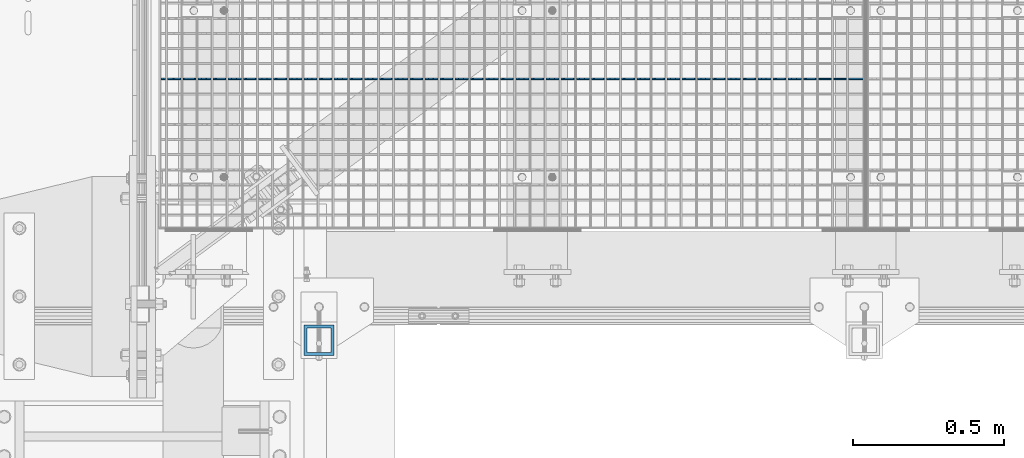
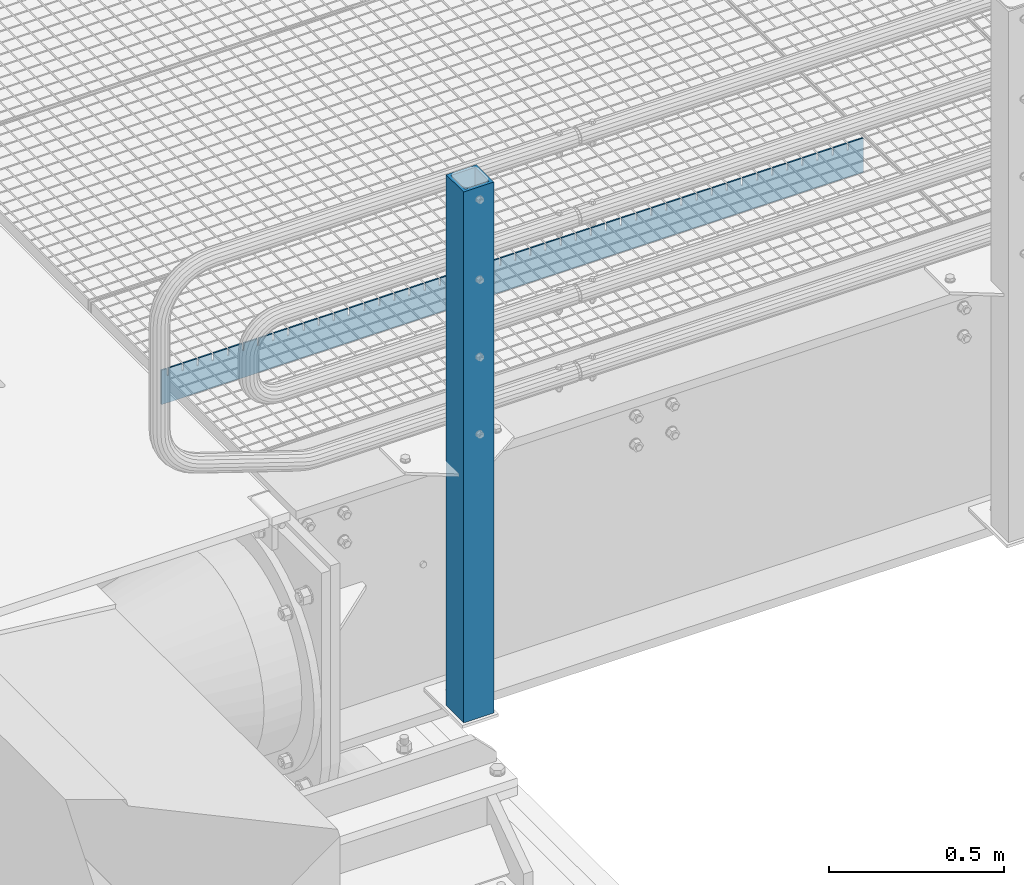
# One storey, part 112 of 1530: 2 beams.
"""IFC2X3 building model written with IfcOpenShell, lengths in millimetres."""

import ifcopenshell
import ifcopenshell.guid

model = None  # the IFC model being written
_history = None  # IfcOwnerHistory: only IFC2X3 demands one
_inside = {}  # id of a spatial element -> (the spatial element, [elements in it])
_under = {}  # id of a project, library or spatial element -> (it, [spatial elements below it])
_declared = {}  # id of a project -> (the project, [libraries it declares])
_typed = {}  # id of a type object -> (the type object, [elements of that type])
_made_of = {}  # id of a material, layer set ... -> (it, [elements and type objects made of it])


def new_model(schema):
    """Start an empty IFC model of exactly this schema.

    Asked for "IFC4X3", IfcOpenShell would pick the latest addendum, in which some entities
    have other attributes; the version numbers below select the first issue.
    IFC2X3 requires an IfcOwnerHistory on every rooted entity: one is made here for all.
    """
    global model, _history
    if schema == "IFC4X3":
        model = ifcopenshell.file(schema_version=(4, 3, 0, 0))
    else:
        model = ifcopenshell.file(schema=schema)
    _inside.clear()
    _under.clear()
    _declared.clear()
    _typed.clear()
    _made_of.clear()
    _history = None
    if model.schema == "IFC2X3":
        org = make("IfcOrganization", Name="unknown")
        user = make(
            "IfcPersonAndOrganization",
            ThePerson=make("IfcPerson", FamilyName="unknown"),
            TheOrganization=org,
        )
        app = make(
            "IfcApplication",
            ApplicationDeveloper=org,
            Version="unknown",
            ApplicationFullName="unknown",
            ApplicationIdentifier="unknown",
        )
        _history = make(
            "IfcOwnerHistory",
            OwningUser=user,
            OwningApplication=app,
            ChangeAction="ADDED",
            CreationDate=0,
        )
    return model


def make(cls, **values):
    """One entity of the class cls with the attributes given. An attribute that is None is left unset."""
    return model.create_entity(
        cls, **{name: value for name, value in values.items() if value is not None}
    )


def rooted(cls, **values):
    """An entity with a GlobalId (a new one), such as an element, a storey or a relation."""
    return make(cls, GlobalId=ifcopenshell.guid.new(), OwnerHistory=_history, **values)


def si_unit(unit_type, name, prefix=None):
    """IfcSIUnit, for example si_unit("LENGTHUNIT", "METRE", prefix="MILLI")."""
    return make("IfcSIUnit", UnitType=unit_type, Prefix=prefix, Name=name)


def assignment(units):
    """IfcUnitAssignment: the units of a project."""
    return None if units is None else make("IfcUnitAssignment", Units=units)


def point(xyz):
    """IfcCartesianPoint."""
    return None if xyz is None else make("IfcCartesianPoint", Coordinates=xyz)


def direction(xyz):
    """IfcDirection."""
    return None if xyz is None else make("IfcDirection", DirectionRatios=xyz)


def frame(location, z_axis=None, x_axis=None):
    """IfcAxis2Placement3D, a coordinate frame: its origin and axes. An axis left out is left unset."""
    return make(
        "IfcAxis2Placement3D",
        Location=point(location),
        Axis=direction(z_axis),
        RefDirection=direction(x_axis),
    )


def origin_with_axes():
    """The frame at (0, 0, 0) with the z axis (0, 0, 1) and the x axis (1, 0, 0) written out."""
    return frame((0.0, 0.0, 0.0), z_axis=(0.0, 0.0, 1.0), x_axis=(1.0, 0.0, 0.0))


def place(relative_to, where):
    """IfcLocalPlacement: puts the frame where relative to a parent placement (None: the world)."""
    return make(
        "IfcLocalPlacement", PlacementRelTo=relative_to, RelativePlacement=where
    )


def context(
    kind, dimensions, precision=None, world=None, true_north=None, identifier=None
):
    """IfcGeometricRepresentationContext, for example the 3D "Model" context."""
    return make(
        "IfcGeometricRepresentationContext",
        ContextIdentifier=identifier,
        ContextType=kind,
        CoordinateSpaceDimension=dimensions,
        Precision=precision,
        WorldCoordinateSystem=world,
        TrueNorth=true_north,
    )


def subcontext(parent, identifier, kind, view, scale=None):
    """IfcGeometricRepresentationSubContext, for example "Body" below "Model"."""
    return make(
        "IfcGeometricRepresentationSubContext",
        ContextIdentifier=identifier,
        ContextType=kind,
        ParentContext=parent,
        TargetScale=scale,
        TargetView=view,
    )


def project(units=None, contexts=None):
    """IfcProject with its units and contexts."""
    return rooted(
        "IfcProject",
        Name="project",
        RepresentationContexts=contexts,
        UnitsInContext=assignment(units),
    )


def spatial(cls, under=None, at=None, **own):
    """A site, building, storey or space (cls), placed at a placement, below another one or the project."""
    s = rooted(cls, ObjectPlacement=at, **own)
    if under is not None:
        _under.setdefault(under.id(), (under, []))[1].append(s)
    return s


def faces_of(points, faces, orient=None, outer=None):
    """IfcFace entities. A face is a list of loops; a loop is a list of indices into points, from 0.

    orient and outer hold one flag for each loop. By default every Orientation is true, the
    first loop of a face is its IfcFaceOuterBound and the others are IfcFaceBound.
    """
    made = []
    for i, loops in enumerate(faces):
        bounds = []
        for j, loop in enumerate(loops):
            is_outer = j == 0 if outer is None else outer[i][j]
            bounds.append(
                make(
                    "IfcFaceOuterBound" if is_outer else "IfcFaceBound",
                    Bound=make("IfcPolyLoop", Polygon=[points[k] for k in loop]),
                    Orientation=True if orient is None else orient[i][j],
                )
            )
        made.append(make("IfcFace", Bounds=bounds))
    return made


def faceted_brep(points, faces, orient=None, outer=None, voids=None):
    """IfcFacetedBrep: a solid bounded by flat faces; with voids (closed shells), ...WithVoids."""
    shared = [point(p) for p in points]
    hull = make("IfcClosedShell", CfsFaces=faces_of(shared, faces, orient, outer))
    if voids is None:
        return make("IfcFacetedBrep", Outer=hull)
    return make(
        "IfcFacetedBrepWithVoids",
        Outer=hull,
        Voids=[
            make(cls, CfsFaces=faces_of(shared, fs, o, b)) for cls, fs, o, b in voids
        ],
    )


def shape(context_of_items, identifier, shape_type, items):
    """IfcShapeRepresentation: the items that make up one representation, for example the "Body"."""
    return make(
        "IfcShapeRepresentation",
        ContextOfItems=context_of_items,
        RepresentationIdentifier=identifier,
        RepresentationType=shape_type,
        Items=items,
    )


def material(Name=None, Category=None):
    """IfcMaterial."""
    return make("IfcMaterial", Name=Name, Category=Category)


def made_of(thing, what):
    """Note that an element or type object is made of a material, layer set ...; save() writes the relation."""
    if what is not None:
        _made_of.setdefault(what.id(), (what, []))[1].append(thing)
    return thing


def type_object(cls, material=None, **own):
    """A type object (cls), such as IfcWallType, which elements share."""
    return made_of(rooted(cls, **own), material)


def element(
    cls,
    number,
    at=None,
    inside=None,
    cuts=None,
    type_object=None,
    material=None,
    context=None,
    identifier="Body",
    shape_type=None,
    held_by="IfcProductDefinitionShape",
    body=None,
    shapes=None,
    **own,
):
    """One element of the class cls, such as IfcWall. Its Tag is "e" and its number.

    at: its placement. inside: the storey or other place that contains it. cuts: it is an
    opening in that element (IfcRelVoidsElement). A single representation is given by context,
    identifier, shape_type and body (its items); several are given by shapes. held_by: the class
    of the entity that holds the representations. save() writes the other relations.
    """
    e = rooted(cls, Tag="e%d" % number, ObjectPlacement=at, **own)
    if body is not None:
        shapes = [shape(context, identifier, shape_type, body)]
    if shapes is not None:
        e.Representation = make(held_by, Representations=shapes)
    if inside is not None:
        _inside.setdefault(inside.id(), (inside, []))[1].append(e)
    if cuts is not None:
        rooted(
            "IfcRelVoidsElement", RelatingBuildingElement=cuts, RelatedOpeningElement=e
        )
    if type_object is not None:
        _typed.setdefault(type_object.id(), (type_object, []))[1].append(e)
    return made_of(e, material)


def aggregate(whole, parts):
    """IfcRelAggregates: a whole, such as a stair, and the parts it consists of."""
    return rooted("IfcRelAggregates", RelatingObject=whole, RelatedObjects=parts)


def save(model, path):
    """Write the relations noted so far, then the file.

    IfcRelAggregates (storeys below a building ...), IfcRelContainedInSpatialStructure (elements
    in a storey), IfcRelDefinesByType, IfcRelAssociatesMaterial and IfcRelDeclares: one each for
    every whole, place, type object, material and project.
    """
    for whole, parts in _under.values():
        aggregate(whole, parts)
    for where, things in _inside.values():
        rooted(
            "IfcRelContainedInSpatialStructure",
            RelatedElements=things,
            RelatingStructure=where,
        )
    for kind, things in _typed.values():
        rooted("IfcRelDefinesByType", RelatedObjects=things, RelatingType=kind)
    for what, things in _made_of.values():
        rooted("IfcRelAssociatesMaterial", RelatedObjects=things, RelatingMaterial=what)
    for by, libraries in _declared.values():
        rooted("IfcRelDeclares", RelatingContext=by, RelatedDefinitions=libraries)
    model.write(path)


model = new_model("IFC2X3")

# Units and contexts
model_context = context("Model", 3, precision=1e-05, world=origin_with_axes())
body_context = subcontext(model_context, "Body", "Model", "MODEL_VIEW")
ifc_project = project(units=[si_unit("LENGTHUNIT", "METRE", prefix="MILLI"), si_unit("AREAUNIT", "SQUARE_METRE"), si_unit("VOLUMEUNIT", "CUBIC_METRE"), si_unit("MASSUNIT", "GRAM", prefix="KILO"), si_unit("TIMEUNIT", "SECOND"), si_unit("PLANEANGLEUNIT", "RADIAN"), si_unit("SOLIDANGLEUNIT", "STERADIAN"), si_unit("THERMODYNAMICTEMPERATUREUNIT", "DEGREE_CELSIUS"), si_unit("LUMINOUSINTENSITYUNIT", "LUMEN")], contexts=[model_context])

# Site, building, storey
site_placement = place(None, origin_with_axes())
site = spatial("IfcSite", under=ifc_project, at=site_placement, Name="Brattvåg", CompositionType="ELEMENT")
building_placement = place(site_placement, origin_with_axes())
building = spatial("IfcBuilding", under=site, at=building_placement, Name="Undefined", CompositionType="ELEMENT")
storey_placement = place(building_placement, origin_with_axes())
storey = spatial("IfcBuildingStorey", under=building, at=storey_placement, Name="Undefined", CompositionType="ELEMENT", Elevation=0.0)

# Beams
ifc_material_1 = material(Name="STEEL/S355J2")
beam_type_1 = type_object("IfcBeamType", Name="120*5", PredefinedType="NOTDEFINED")
beam_1_placement = place(storey_placement, frame((2347.01317977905, 652.995635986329, -59.9998626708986), z_axis=(0.0, 0.0, 1.0), x_axis=(-1.0, 1.99999855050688e-09, 0.0)))
element("IfcBeam", 1, at=beam_1_placement, inside=storey, type_object=beam_type_1, material=ifc_material_1, Name="GRATING", context=body_context, shape_type="Brep", body=[
    faceted_brep([(99.4490367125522, -2.50000000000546, 60.0000722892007), (99.4490367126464, -2.50000000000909, 35.0001373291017), (99.4490367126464, 2.50022888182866, 35.0001373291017), (99.4490367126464, 2.5, 60.0), (104.449036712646, -2.50000000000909, 35.0001373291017), (104.449036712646, 2.50022888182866, 35.0001373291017), (104.449036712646, -2.50000000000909, 60.0001373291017), (104.449036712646, 2.5, 60.0), (54.5084370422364, -2.50000000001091, 60.0001373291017), (54.5084370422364, 2.5, 60.0), (54.5084370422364, 2.49999999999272, 35.0001373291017), (54.5084370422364, -2.50000000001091, 35.0001373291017), (49.5084370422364, 2.49999999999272, 35.0001373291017), (49.5084370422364, -2.50000000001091, 35.0001373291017), (49.5084370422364, -2.5, 60.0), (49.5084370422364, 2.5, 60.0), (0.0, 2.5, 60.0), (0.0, -2.5, 60.0), (0.0, -2.5, -60.0), (0.0, 2.5, -60.0), (2319.99865722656, 2.5, -60.0), (2319.99865722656, -2.5, -60.0), (2319.99865722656, -2.5, 60.0), (2319.99865722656, 2.5, 60.0), (2302.24871932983, 2.5, 60.0), (2302.24871932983, -2.50000000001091, 60.0001373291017), (2302.24871932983, 2.49999999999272, 35.0001373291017), (2302.24871932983, -2.50000000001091, 35.0001373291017), (2297.24871932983, 2.49999999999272, 35.0001373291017), (2297.24871932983, -2.50000000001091, 35.0001373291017), (2297.24871932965, -2.50000000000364, 60.0000461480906), (2297.24871932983, 2.5, 60.0), (2252.29859649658, 2.5, 60.0), (2252.29859649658, -2.50000000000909, 60.0001373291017), (2252.29859649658, 2.50022888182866, 35.0001373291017), (2252.29859649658, -2.50000000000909, 35.0001373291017), (2247.29859649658, 2.50022888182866, 35.0001373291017), (2247.29859649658, -2.50000000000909, 35.0001373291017), (2247.29859649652, -2.50000000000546, 60.0000848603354), (2247.29859649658, 2.5, 60.0), (2202.34847366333, 2.5, 60.0), (2202.34847366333, -2.50000000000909, 60.0001373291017), (2202.34847366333, 2.50022888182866, 35.0001373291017), (2202.34847366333, -2.50000000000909, 35.0001373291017), (2197.34847366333, 2.50022888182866, 35.0001373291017), (2197.34847366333, -2.50000000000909, 35.0001373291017), (2197.34847366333, -2.5, 60.0), (2197.34847366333, 2.5, 60.0), (2152.39882766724, 2.5, 60.0), (2152.39882766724, -2.50000000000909, 60.0001373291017), (2152.39882766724, 2.50022888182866, 35.0001373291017), (2152.39882766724, -2.50000000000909, 35.0001373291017), (2147.39882766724, 2.50022888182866, 35.0001373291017), (2147.39882766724, -2.50000000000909, 35.0001373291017), (2147.39882766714, -2.50000000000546, 60.0000722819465), (2147.39882766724, 2.5, 60.0), (2102.44870483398, 2.5, 60.0), (2102.44870483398, -2.50000000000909, 60.0001373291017), (2102.44870483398, 2.50022888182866, 35.0001373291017), (2102.44870483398, -2.50000000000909, 35.0001373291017), (2097.44870483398, 2.50022888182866, 35.0001373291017), (2097.44870483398, -2.50000000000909, 35.0001373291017), (2097.44870483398, -2.5, 60.0), (2097.44870483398, 2.5, 60.0), (2052.49858200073, 2.5, 60.0), (2052.49858200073, -2.50000000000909, 60.0001373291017), (2052.49858200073, 2.50022888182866, 35.0001373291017), (2052.49858200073, -2.50000000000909, 35.0001373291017), (2047.49858200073, 2.50022888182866, 35.0001373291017), (2047.49858200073, -2.50000000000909, 35.0001373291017), (2047.49858200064, -2.50000000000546, 60.0000722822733), (2047.49858200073, 2.5, 60.0), (2002.54845916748, 2.5, 60.0), (2002.54845916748, -2.50000000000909, 60.0001373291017), (2002.54845916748, 2.50022888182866, 35.0001373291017), (2002.54845916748, -2.50000000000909, 35.0001373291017), (1997.54845916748, 2.50022888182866, 35.0001373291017), (1997.54845916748, -2.50000000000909, 35.0001373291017), (1997.54845916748, -2.5, 60.0), (1997.54845916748, 2.5, 60.0), (1952.59881317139, 2.5, 60.0), (1952.59881317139, -2.50000000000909, 60.0001373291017), (1952.59881317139, 2.50022888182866, 35.0001373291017), (1952.59881317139, -2.50000000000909, 35.0001373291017), (1947.59881317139, 2.50022888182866, 35.0001373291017), (1947.59881317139, -2.50000000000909, 35.0001373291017), (1947.59881317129, -2.50000000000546, 60.0000722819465), (1947.59881317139, 2.5, 60.0), (1902.64869033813, 2.5, 60.0), (1902.64869033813, -2.50000000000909, 60.0001373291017), (1902.64869033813, 2.50022888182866, 35.0001373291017), (1902.64869033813, -2.50000000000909, 35.0001373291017), (1897.64869033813, 2.50022888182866, 35.0001373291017), (1897.64869033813, -2.50000000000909, 35.0001373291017), (1897.64869033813, -2.5, 60.0), (1897.64869033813, 2.5, 60.0), (1852.69856750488, 2.5, 60.0), (1852.69856750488, -2.50000000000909, 60.0001373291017), (1852.69856750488, 2.50022888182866, 35.0001373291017), (1852.69856750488, -2.50000000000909, 35.0001373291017), (1847.69856750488, 2.50022888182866, 35.0001373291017), (1847.69856750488, -2.50000000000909, 35.0001373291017), (1847.69856750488, -2.5, 60.0), (1847.69856750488, 2.5, 60.0), (1802.74892150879, 2.5, 60.0), (1802.74892150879, -2.50000000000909, 60.0001373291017), (1802.74892150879, 2.50022888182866, 35.0001373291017), (1802.74892150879, -2.50000000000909, 35.0001373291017), (1797.74892150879, 2.50022888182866, 35.0001373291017), (1797.74892150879, -2.50000000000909, 35.0001373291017), (1797.74892150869, -2.50000000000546, 60.0000722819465), (1797.74892150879, 2.5, 60.0), (1752.79879867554, 2.5, 60.0), (1752.79879867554, -2.50000000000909, 60.0001373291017), (1752.79879867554, 2.50022888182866, 35.0001373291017), (1752.79879867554, -2.50000000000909, 35.0001373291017), (1747.79879867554, 2.50022888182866, 35.0001373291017), (1747.79879867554, -2.50000000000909, 35.0001373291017), (1747.79879867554, -2.5, 60.0), (1747.79879867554, 2.5, 60.0), (1702.84867584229, 2.5, 60.0), (1702.84867584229, -2.50000000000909, 60.0001373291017), (1702.84867584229, 2.50022888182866, 35.0001373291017), (1702.84867584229, -2.50000000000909, 35.0001373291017), (1697.84867584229, 2.50022888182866, 35.0001373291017), (1697.84867584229, -2.50000000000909, 35.0001373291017), (1697.84867584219, -2.50000000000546, 60.0000722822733), (1697.84867584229, 2.5, 60.0), (1652.89855300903, 2.5, 60.0), (1652.89855300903, -2.50000000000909, 60.0001373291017), (1652.89855300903, 2.50022888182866, 35.0001373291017), (1652.89855300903, -2.50000000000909, 35.0001373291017), (1647.89855300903, 2.50022888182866, 35.0001373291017), (1647.89855300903, -2.50000000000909, 35.0001373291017), (1647.89855300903, -2.5, 60.0), (1647.89855300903, 2.5, 60.0), (1602.94890701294, 2.5, 60.0), (1602.94890701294, -2.50000000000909, 60.0001373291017), (1602.94890701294, 2.50022888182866, 35.0001373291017), (1602.94890701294, -2.50000000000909, 35.0001373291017), (1597.94890701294, 2.50022888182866, 35.0001373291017), (1597.94890701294, -2.50000000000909, 35.0001373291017), (1597.94890701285, -2.50000000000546, 60.0000722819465), (1597.94890701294, 2.5, 60.0), (1552.99878417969, 2.5, 60.0), (1552.99878417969, -2.50000000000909, 60.0001373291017), (1552.99878417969, 2.50022888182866, 35.0001373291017), (1552.99878417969, -2.50000000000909, 35.0001373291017), (1547.99878417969, 2.50022888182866, 35.0001373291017), (1547.99878417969, -2.50000000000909, 35.0001373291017), (1547.99878417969, -2.5, 60.0), (1547.99878417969, 2.5, 60.0), (1503.04866134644, 2.5, 60.0), (1503.04866134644, -2.50000000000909, 60.0001373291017), (1503.04866134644, 2.50022888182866, 35.0001373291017), (1503.04866134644, -2.50000000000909, 35.0001373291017), (1498.04866134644, 2.50022888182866, 35.0001373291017), (1498.04866134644, -2.50000000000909, 35.0001373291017), (1498.04866134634, -2.50000000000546, 60.0000722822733), (1498.04866134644, 2.5, 60.0), (1453.09853851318, 2.5, 60.0), (1453.09853851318, -2.50000000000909, 60.0001373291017), (1453.09853851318, 2.50022888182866, 35.0001373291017), (1453.09853851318, -2.50000000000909, 35.0001373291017), (1448.09853851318, 2.50022888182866, 35.0001373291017), (1448.09853851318, -2.50000000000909, 35.0001373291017), (1448.09853851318, -2.5, 60.0), (1448.09853851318, 2.5, 60.0), (1403.14889251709, 2.5, 60.0), (1403.14889251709, -2.50000000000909, 60.0001373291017), (1403.14889251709, 2.50022888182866, 35.0001373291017), (1403.14889251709, -2.50000000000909, 35.0001373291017), (1398.14889251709, 2.50022888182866, 35.0001373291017), (1398.14889251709, -2.50000000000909, 35.0001373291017), (1398.148892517, -2.50000000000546, 60.0000722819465), (1398.14889251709, 2.5, 60.0), (1353.19876968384, 2.5, 60.0), (1353.19876968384, -2.50000000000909, 60.0001373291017), (1353.19876968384, 2.50022888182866, 35.0001373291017), (1353.19876968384, -2.50000000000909, 35.0001373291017), (1348.19876968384, 2.50022888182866, 35.0001373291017), (1348.19876968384, -2.50000000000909, 35.0001373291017), (1348.19876968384, -2.5, 60.0), (1348.19876968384, 2.5, 60.0), (1303.24864685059, 2.5, 60.0), (1303.24864685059, -2.50000000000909, 60.0001373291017), (1303.24864685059, 2.50022888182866, 35.0001373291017), (1303.24864685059, -2.50000000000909, 35.0001373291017), (1298.24864685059, 2.50022888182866, 35.0001373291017), (1298.24864685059, -2.50000000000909, 35.0001373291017), (1298.24864685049, -2.50000000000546, 60.0000722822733), (1298.24864685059, 2.5, 60.0), (1253.29852401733, 2.5, 60.0), (1253.29852401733, -2.50000000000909, 60.0001373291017), (1253.29852401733, 2.50022888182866, 35.0001373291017), (1253.29852401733, -2.50000000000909, 35.0001373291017), (1248.29852401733, 2.50022888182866, 35.0001373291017), (1248.29852401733, -2.50000000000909, 35.0001373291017), (1248.29852401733, -2.5, 60.0), (1248.29852401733, 2.5, 60.0), (1203.34887802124, 2.5, 60.0), (1203.34887802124, -2.50000000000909, 60.0001373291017), (1203.34887802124, 2.50022888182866, 35.0001373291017), (1203.34887802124, -2.50000000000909, 35.0001373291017), (1198.34887802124, 2.50022888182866, 35.0001373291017), (1198.34887802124, -2.50000000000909, 35.0001373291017), (1198.34887802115, -2.50000000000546, 60.0000722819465), (1198.34887802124, 2.5, 60.0), (1153.39875518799, 2.5, 60.0), (1153.39875518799, -2.50000000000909, 60.0001373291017), (1153.39875518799, 2.50022888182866, 35.0001373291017), (1153.39875518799, -2.50000000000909, 35.0001373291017), (1148.39875518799, 2.50022888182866, 35.0001373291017), (1148.39875518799, -2.50000000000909, 35.0001373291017), (1148.39875518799, -2.5, 60.0), (1148.39875518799, 2.5, 60.0), (1103.44863235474, 2.5, 60.0), (1103.44863235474, -2.50000000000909, 60.0001373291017), (1103.44863235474, 2.50022888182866, 35.0001373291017), (1103.44863235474, -2.50000000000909, 35.0001373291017), (1098.44863235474, 2.50022888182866, 35.0001373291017), (1098.44863235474, -2.50000000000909, 35.0001373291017), (1098.44863235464, -2.50000000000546, 60.0000722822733), (1098.44863235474, 2.5, 60.0), (1053.49850952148, 2.5, 60.0), (1053.49850952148, -2.50000000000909, 60.0001373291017), (1053.49850952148, 2.50022888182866, 35.0001373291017), (1053.49850952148, -2.50000000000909, 35.0001373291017), (1048.49850952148, 2.50022888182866, 35.0001373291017), (1048.49850952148, -2.50000000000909, 35.0001373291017), (1048.49850952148, -2.5, 60.0), (1048.49850952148, 2.5, 60.0), (1003.54886352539, 2.5, 60.0), (1003.54886352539, -2.50000000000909, 60.0001373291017), (1003.54886352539, 2.50022888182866, 35.0001373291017), (1003.54886352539, -2.50000000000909, 35.0001373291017), (998.548863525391, 2.50022888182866, 35.0001373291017), (998.548863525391, -2.50000000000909, 35.0001373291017), (998.548863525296, -2.50000000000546, 60.0000722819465), (998.548863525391, 2.5, 60.0), (953.598740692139, 2.5, 60.0), (953.598740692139, -2.50000000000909, 60.0001373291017), (953.598740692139, 2.50022888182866, 35.0001373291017), (953.598740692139, -2.50000000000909, 35.0001373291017), (948.598740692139, 2.50022888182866, 35.0001373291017), (948.598740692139, -2.50000000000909, 35.0001373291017), (948.598740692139, -2.5, 60.0), (948.598740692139, 2.5, 60.0), (903.648617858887, 2.5, 60.0), (903.648617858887, -2.50000000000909, 60.0001373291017), (903.648617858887, 2.50022888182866, 35.0001373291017), (903.648617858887, -2.50000000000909, 35.0001373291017), (898.648617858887, 2.50022888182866, 35.0001373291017), (898.648617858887, -2.50000000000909, 35.0001373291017), (898.648617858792, -2.50000000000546, 60.0000722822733), (898.648617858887, 2.5, 60.0), (853.698495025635, 2.5, 60.0), (853.698495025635, -2.50000000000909, 60.0001373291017), (853.698495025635, 2.50022888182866, 35.0001373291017), (853.698495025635, -2.50000000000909, 35.0001373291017), (848.698495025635, 2.50022888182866, 35.0001373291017), (848.698495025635, -2.50000000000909, 35.0001373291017), (848.698495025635, -2.5, 60.0), (848.698495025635, 2.5, 60.0), (803.748849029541, 2.5, 60.0), (803.748849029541, -2.50000000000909, 60.0001373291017), (803.748849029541, 2.50022888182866, 35.0001373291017), (803.748849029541, -2.50000000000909, 35.0001373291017), (798.748849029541, 2.50022888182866, 35.0001373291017), (798.748849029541, -2.50000000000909, 35.0001373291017), (798.748849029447, -2.50000000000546, 60.0000722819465), (798.748849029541, 2.5, 60.0), (753.798726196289, 2.5, 60.0), (753.798726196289, -2.50000000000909, 60.0001373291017), (753.798726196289, 2.50022888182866, 35.0001373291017), (753.798726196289, -2.50000000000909, 35.0001373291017), (748.798726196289, 2.50022888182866, 35.0001373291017), (748.798726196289, -2.50000000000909, 35.0001373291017), (748.798726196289, -2.5, 60.0), (748.798726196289, 2.5, 60.0), (703.848603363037, 2.5, 60.0), (703.848603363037, -2.50000000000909, 60.0001373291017), (703.848603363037, 2.50022888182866, 35.0001373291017), (703.848603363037, -2.50000000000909, 35.0001373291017), (698.848603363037, 2.50022888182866, 35.0001373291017), (698.848603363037, -2.50000000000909, 35.0001373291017), (698.848603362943, -2.50000000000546, 60.0000722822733), (698.848603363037, 2.5, 60.0), (653.898480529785, 2.5, 60.0), (653.898480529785, -2.50000000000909, 60.0001373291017), (653.898480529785, 2.50022888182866, 35.0001373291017), (653.898480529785, -2.50000000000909, 35.0001373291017), (648.898480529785, 2.50022888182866, 35.0001373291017), (648.898480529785, -2.50000000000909, 35.0001373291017), (648.898480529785, -2.5, 60.0), (648.898480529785, 2.5, 60.0), (603.948834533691, 2.5, 60.0), (603.948834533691, -2.50000000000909, 60.0001373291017), (603.948834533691, 2.50022888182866, 35.0001373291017), (603.948834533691, -2.50000000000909, 35.0001373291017), (598.948834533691, 2.50022888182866, 35.0001373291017), (598.948834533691, -2.50000000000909, 35.0001373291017), (598.948834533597, -2.50000000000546, 60.0000722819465), (598.948834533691, 2.5, 60.0), (553.998711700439, 2.5, 60.0), (553.998711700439, -2.50000000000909, 60.0001373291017), (553.998711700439, 2.50022888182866, 35.0001373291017), (553.998711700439, -2.50000000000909, 35.0001373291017), (548.998711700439, 2.50022888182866, 35.0001373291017), (548.998711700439, -2.50000000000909, 35.0001373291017), (548.998711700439, -2.5, 60.0), (548.998711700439, 2.5, 60.0), (504.048588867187, 2.5, 60.0), (504.048588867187, -2.50000000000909, 60.0001373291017), (504.048588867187, 2.50022888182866, 35.0001373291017), (504.048588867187, -2.50000000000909, 35.0001373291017), (499.048588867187, 2.50022888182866, 35.0001373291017), (499.048588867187, -2.50000000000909, 35.0001373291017), (499.048588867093, -2.50000000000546, 60.0000722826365), (499.048588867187, 2.5, 60.0), (454.098942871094, 2.5, 60.0), (454.098942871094, -2.50000000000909, 60.0001373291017), (454.098942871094, 2.50022888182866, 35.0001373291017), (454.098942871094, -2.50000000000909, 35.0001373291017), (449.098942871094, 2.50022888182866, 35.0001373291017), (449.098942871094, -2.50000000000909, 35.0001373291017), (449.098942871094, -2.5, 60.0), (449.098942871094, 2.5, 60.0), (404.148820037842, 2.5, 60.0), (404.148820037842, -2.50000000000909, 60.0001373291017), (404.148820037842, 2.50022888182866, 35.0001373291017), (404.148820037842, -2.50000000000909, 35.0001373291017), (399.148820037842, 2.50022888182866, 35.0001373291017), (399.148820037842, -2.50000000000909, 35.0001373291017), (399.148820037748, -2.50000000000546, 60.0000722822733), (399.148820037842, 2.5, 60.0), (354.19869720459, 2.5, 60.0), (354.19869720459, -2.50000000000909, 60.0001373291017), (354.19869720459, 2.50022888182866, 35.0001373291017), (354.19869720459, -2.50000000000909, 35.0001373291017), (349.19869720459, 2.50022888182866, 35.0001373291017), (349.19869720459, -2.50000000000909, 35.0001373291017), (349.19869720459, -2.5, 60.0), (349.19869720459, 2.5, 60.0), (304.248574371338, 2.5, 60.0), (304.248574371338, -2.50000000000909, 60.0001373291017), (304.248574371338, 2.50022888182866, 35.0001373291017), (304.248574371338, -2.50000000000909, 35.0001373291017), (299.248574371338, 2.50022888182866, 35.0001373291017), (299.248574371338, -2.50000000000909, 35.0001373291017), (299.248574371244, -2.50000000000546, 60.0000722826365), (299.248574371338, 2.5, 60.0), (254.298928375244, 2.5, 60.0), (254.298928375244, -2.50000000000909, 60.0001373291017), (254.298928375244, 2.50022888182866, 35.0001373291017), (254.298928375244, -2.50000000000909, 35.0001373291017), (249.298928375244, 2.50022888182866, 35.0001373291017), (249.298928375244, -2.50000000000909, 35.0001373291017), (249.298928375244, -2.5, 60.0), (249.298928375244, 2.5, 60.0), (204.348328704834, 2.5, 60.0), (204.348328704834, -2.50000000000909, 60.0001373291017), (204.348328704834, 2.50022888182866, 35.0001373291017), (204.348328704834, -2.50000000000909, 35.0001373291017), (199.348328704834, 2.50022888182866, 35.0001373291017), (199.348328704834, -2.50000000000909, 35.0001373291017), (199.34832870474, -2.50000000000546, 60.0000722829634), (199.348328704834, 2.5, 60.0), (154.39868270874, 2.5, 60.0), (154.39868270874, -2.50000000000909, 60.0001373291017), (154.39868270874, 2.50022888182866, 35.0001373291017), (154.39868270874, -2.50000000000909, 35.0001373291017), (149.39868270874, 2.50022888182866, 35.0001373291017), (149.39868270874, -2.50000000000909, 35.0001373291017), (149.39868270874, -2.5, 60.0), (149.39868270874, 2.5, 60.0)], [[[0, 1, 2, 3]], [[4, 5, 2, 1]], [[6, 7, 5, 4]], [[8, 9, 10, 11]], [[11, 10, 12, 13]], [[14, 13, 12, 15]], [[16, 17, 14, 15]], [[18, 17, 16, 19]], [[18, 19, 20, 21]], [[22, 21, 20, 23]], [[22, 23, 24, 25]], [[25, 24, 26, 27]], [[27, 26, 28, 29]], [[30, 29, 28, 31]], [[32, 33, 30, 31]], [[33, 32, 34, 35]], [[35, 34, 36, 37]], [[38, 37, 36, 39]], [[40, 41, 38, 39]], [[41, 40, 42, 43]], [[43, 42, 44, 45]], [[46, 45, 44, 47]], [[46, 47, 48, 49]], [[49, 48, 50, 51]], [[51, 50, 52, 53]], [[54, 53, 52, 55]], [[56, 57, 54, 55]], [[57, 56, 58, 59]], [[59, 58, 60, 61]], [[62, 61, 60, 63]], [[62, 63, 64, 65]], [[65, 64, 66, 67]], [[67, 66, 68, 69]], [[70, 69, 68, 71]], [[72, 73, 70, 71]], [[73, 72, 74, 75]], [[75, 74, 76, 77]], [[78, 77, 76, 79]], [[78, 79, 80, 81]], [[81, 80, 82, 83]], [[83, 82, 84, 85]], [[86, 85, 84, 87]], [[88, 89, 86, 87]], [[89, 88, 90, 91]], [[91, 90, 92, 93]], [[94, 93, 92, 95]], [[94, 95, 96, 97]], [[97, 96, 98, 99]], [[99, 98, 100, 101]], [[102, 101, 100, 103]], [[102, 103, 104, 105]], [[105, 104, 106, 107]], [[107, 106, 108, 109]], [[110, 109, 108, 111]], [[112, 113, 110, 111]], [[113, 112, 114, 115]], [[115, 114, 116, 117]], [[118, 117, 116, 119]], [[118, 119, 120, 121]], [[121, 120, 122, 123]], [[123, 122, 124, 125]], [[126, 125, 124, 127]], [[128, 129, 126, 127]], [[129, 128, 130, 131]], [[131, 130, 132, 133]], [[134, 133, 132, 135]], [[134, 135, 136, 137]], [[137, 136, 138, 139]], [[139, 138, 140, 141]], [[142, 141, 140, 143]], [[144, 145, 142, 143]], [[145, 144, 146, 147]], [[147, 146, 148, 149]], [[150, 149, 148, 151]], [[150, 151, 152, 153]], [[153, 152, 154, 155]], [[155, 154, 156, 157]], [[158, 157, 156, 159]], [[160, 161, 158, 159]], [[161, 160, 162, 163]], [[163, 162, 164, 165]], [[166, 165, 164, 167]], [[166, 167, 168, 169]], [[169, 168, 170, 171]], [[171, 170, 172, 173]], [[174, 173, 172, 175]], [[176, 177, 174, 175]], [[177, 176, 178, 179]], [[179, 178, 180, 181]], [[182, 181, 180, 183]], [[182, 183, 184, 185]], [[185, 184, 186, 187]], [[187, 186, 188, 189]], [[190, 189, 188, 191]], [[192, 193, 190, 191]], [[193, 192, 194, 195]], [[195, 194, 196, 197]], [[198, 197, 196, 199]], [[198, 199, 200, 201]], [[201, 200, 202, 203]], [[203, 202, 204, 205]], [[206, 205, 204, 207]], [[208, 209, 206, 207]], [[209, 208, 210, 211]], [[211, 210, 212, 213]], [[214, 213, 212, 215]], [[214, 215, 216, 217]], [[217, 216, 218, 219]], [[219, 218, 220, 221]], [[222, 221, 220, 223]], [[224, 225, 222, 223]], [[225, 224, 226, 227]], [[227, 226, 228, 229]], [[230, 229, 228, 231]], [[230, 231, 232, 233]], [[233, 232, 234, 235]], [[235, 234, 236, 237]], [[238, 237, 236, 239]], [[240, 241, 238, 239]], [[241, 240, 242, 243]], [[243, 242, 244, 245]], [[246, 245, 244, 247]], [[246, 247, 248, 249]], [[249, 248, 250, 251]], [[251, 250, 252, 253]], [[254, 253, 252, 255]], [[256, 257, 254, 255]], [[257, 256, 258, 259]], [[259, 258, 260, 261]], [[262, 261, 260, 263]], [[262, 263, 264, 265]], [[265, 264, 266, 267]], [[267, 266, 268, 269]], [[270, 269, 268, 271]], [[272, 273, 270, 271]], [[273, 272, 274, 275]], [[275, 274, 276, 277]], [[278, 277, 276, 279]], [[278, 279, 280, 281]], [[281, 280, 282, 283]], [[283, 282, 284, 285]], [[286, 285, 284, 287]], [[288, 289, 286, 287]], [[289, 288, 290, 291]], [[291, 290, 292, 293]], [[294, 293, 292, 295]], [[294, 295, 296, 297]], [[297, 296, 298, 299]], [[299, 298, 300, 301]], [[302, 301, 300, 303]], [[304, 305, 302, 303]], [[305, 304, 306, 307]], [[307, 306, 308, 309]], [[310, 309, 308, 311]], [[310, 311, 312, 313]], [[313, 312, 314, 315]], [[315, 314, 316, 317]], [[318, 317, 316, 319]], [[320, 321, 318, 319]], [[321, 320, 322, 323]], [[323, 322, 324, 325]], [[326, 325, 324, 327]], [[326, 327, 328, 329]], [[329, 328, 330, 331]], [[331, 330, 332, 333]], [[334, 333, 332, 335]], [[336, 337, 334, 335]], [[337, 336, 338, 339]], [[339, 338, 340, 341]], [[342, 341, 340, 343]], [[342, 343, 344, 345]], [[345, 344, 346, 347]], [[347, 346, 348, 349]], [[350, 349, 348, 351]], [[352, 353, 350, 351]], [[353, 352, 354, 355]], [[355, 354, 356, 357]], [[358, 357, 356, 359]], [[358, 359, 360, 361]], [[361, 360, 362, 363]], [[363, 362, 364, 365]], [[366, 365, 364, 367]], [[368, 369, 366, 367]], [[369, 368, 370, 371]], [[371, 370, 372, 373]], [[374, 373, 372, 375]], [[1, 0, 8, 11, 13, 14, 17, 18, 21, 22, 25, 27, 29, 30, 33, 35, 37, 38, 41, 43, 45, 46, 49, 51, 53, 54, 57, 59, 61, 62, 65, 67, 69, 70, 73, 75, 77, 78, 81, 83, 85, 86, 89, 91, 93, 94, 97, 99, 101, 102, 105, 107, 109, 110, 113, 115, 117, 118, 121, 123, 125, 126, 129, 131, 133, 134, 137, 139, 141, 142, 145, 147, 149, 150, 153, 155, 157, 158, 161, 163, 165, 166, 169, 171, 173, 174, 177, 179, 181, 182, 185, 187, 189, 190, 193, 195, 197, 198, 201, 203, 205, 206, 209, 211, 213, 214, 217, 219, 221, 222, 225, 227, 229, 230, 233, 235, 237, 238, 241, 243, 245, 246, 249, 251, 253, 254, 257, 259, 261, 262, 265, 267, 269, 270, 273, 275, 277, 278, 281, 283, 285, 286, 289, 291, 293, 294, 297, 299, 301, 302, 305, 307, 309, 310, 313, 315, 317, 318, 321, 323, 325, 326, 329, 331, 333, 334, 337, 339, 341, 342, 345, 347, 349, 350, 353, 355, 357, 358, 361, 363, 365, 366, 369, 371, 373, 374, 6, 4]], [[9, 8, 0, 3]], [[375, 372, 370, 368, 367, 364, 362, 360, 359, 356, 354, 352, 351, 348, 346, 344, 343, 340, 338, 336, 335, 332, 330, 328, 327, 324, 322, 320, 319, 316, 314, 312, 311, 308, 306, 304, 303, 300, 298, 296, 295, 292, 290, 288, 287, 284, 282, 280, 279, 276, 274, 272, 271, 268, 266, 264, 263, 260, 258, 256, 255, 252, 250, 248, 247, 244, 242, 240, 239, 236, 234, 232, 231, 228, 226, 224, 223, 220, 218, 216, 215, 212, 210, 208, 207, 204, 202, 200, 199, 196, 194, 192, 191, 188, 186, 184, 183, 180, 178, 176, 175, 172, 170, 168, 167, 164, 162, 160, 159, 156, 154, 152, 151, 148, 146, 144, 143, 140, 138, 136, 135, 132, 130, 128, 127, 124, 122, 120, 119, 116, 114, 112, 111, 108, 106, 104, 103, 100, 98, 96, 95, 92, 90, 88, 87, 84, 82, 80, 79, 76, 74, 72, 71, 68, 66, 64, 63, 60, 58, 56, 55, 52, 50, 48, 47, 44, 42, 40, 39, 36, 34, 32, 31, 28, 26, 24, 23, 20, 19, 16, 15, 12, 10, 9, 3, 2, 5, 7]], [[374, 375, 7, 6]]]),
])
ifc_material_2 = material(Name="STEEL/S355J2H")
beam_type_2 = type_object("IfcBeamType", Name="RHS100*10", PredefinedType="NOTDEFINED")
beam_2_placement = place(storey_placement, frame((550.000160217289, -209.999721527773, -844.999801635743), z_axis=(-1.0, 1.99999855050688e-09, 0.0), x_axis=(0.0, 0.0, 1.0)))
element("IfcBeam", 2, at=beam_2_placement, inside=storey, type_object=beam_type_2, material=ifc_material_2, Name="STÅLBJELKE", context=body_context, shape_type="Brep", body=[
    faceted_brep([(0.0, 40.0, -40.0), (0.0, -40.0, -40.0), (1855.00001907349, -40.0, -40.0), (1855.00001907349, 40.0, -40.0), (0.0, -40.0, 40.0), (1855.00001907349, -40.0, 40.0), (0.0, 40.0, 40.0), (1855.00001907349, 40.0, 40.0), (0.0, 50.0, -50.0), (0.0, 50.0, 50.0), (1855.00001907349, 50.0, 50.0), (1855.00001907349, 50.0, -50.0), (0.0, -50.0, 50.0), (1855.00001907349, -50.0, 50.0), (0.0, -50.0, -50.0), (1855.00001907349, -50.0, -50.0)], [[[0, 1, 2, 3]], [[1, 4, 5, 2]], [[4, 6, 7, 5]], [[6, 0, 3, 7]], [[8, 9, 10, 11]], [[9, 12, 13, 10]], [[12, 14, 15, 13]], [[14, 8, 11, 15]], [[13, 15, 11, 10], [5, 7, 3, 2]], [[14, 12, 9, 8], [6, 4, 1, 0]]]),
])

save(model, "model.ifc")
